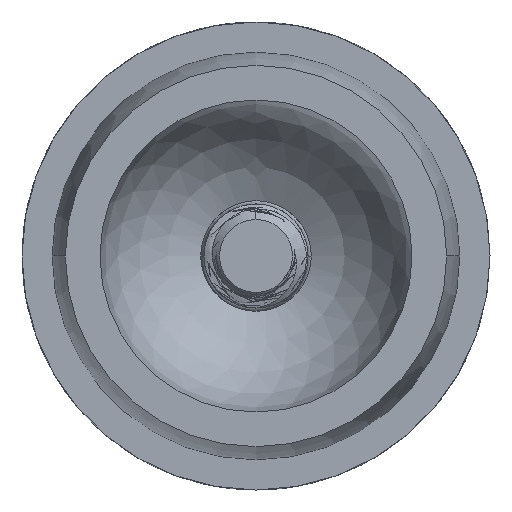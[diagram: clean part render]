
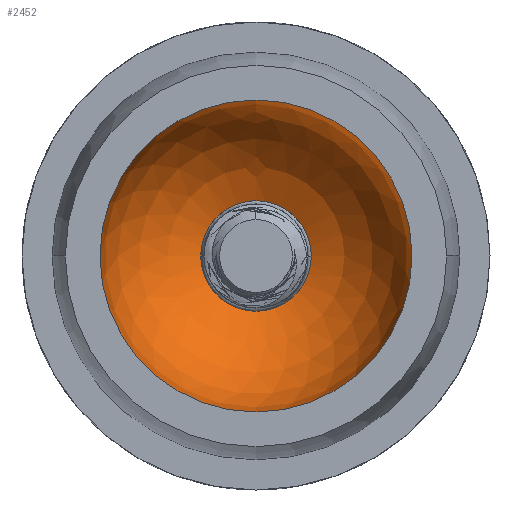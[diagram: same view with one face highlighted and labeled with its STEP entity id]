
A CAD part, left-side view. The second image highlights one B-rep face of the part: STEP entity #2452.
In plain terms, the highlighted spherical face has radius 9.525 mm.
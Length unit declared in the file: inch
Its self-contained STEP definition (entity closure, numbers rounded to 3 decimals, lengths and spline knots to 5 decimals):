
#52 = DIRECTION ( 'NONE',  ( 0., 0., -1. ) ) ;
#61 = AXIS2_PLACEMENT_3D ( 'NONE', #5486, #1793, #6084 ) ;
#211 = CARTESIAN_POINT ( 'NONE',  ( -0.27438, 0., 0. ) ) ;
#273 = ORIENTED_EDGE ( 'NONE', *, *, #7713, .T. ) ;
#340 = FACE_OUTER_BOUND ( 'NONE', #6195, .T. ) ;
#457 = CARTESIAN_POINT ( 'NONE',  ( -0.625, 0., 0. ) ) ;
#830 = DIRECTION ( 'NONE',  ( 0., 0., -1. ) ) ;
#838 = AXIS2_PLACEMENT_3D ( 'NONE', #457, #4741, #1078 ) ;
#882 = CIRCLE ( 'NONE', #6699, 0.133 ) ;
#1078 = DIRECTION ( 'NONE',  ( 0., -1., 0. ) ) ;
#1793 = DIRECTION ( 'NONE',  ( -1., 0., 0. ) ) ;
#1891 = ORIENTED_EDGE ( 'NONE', *, *, #4177, .T. ) ;
#2162 = DIRECTION ( 'NONE',  ( -1., 0., 0. ) ) ;
#2325 = CIRCLE ( 'NONE', #61, 0.375 ) ;
#2452 = ADVANCED_FACE ( 'NONE', ( #340, #3403 ), #5042, .F. ) ;
#2744 = VERTEX_POINT ( 'NONE', #7333 ) ;
#2804 = CARTESIAN_POINT ( 'NONE',  ( -0.625, 0., 0.375 ) ) ;
#3403 = FACE_BOUND ( 'NONE', #3822, .T. ) ;
#3449 = ORIENTED_EDGE ( 'NONE', *, *, #5776, .T. ) ;
#3465 = CARTESIAN_POINT ( 'NONE',  ( -0.27438, 0., 0.133 ) ) ;
#3723 = DIRECTION ( 'NONE',  ( 1., 0., 0. ) ) ;
#3822 = EDGE_LOOP ( 'NONE', ( #3449, #273 ) ) ;
#4177 = EDGE_CURVE ( 'NONE', #6134, #5359, #2325, .T. ) ;
#4497 = DIRECTION ( 'NONE',  ( 1., 0., 0. ) ) ;
#4741 = DIRECTION ( 'NONE',  ( -1., 0., 0. ) ) ;
#5042 = SPHERICAL_SURFACE ( 'NONE', #838, 0.375 ) ;
#5359 = VERTEX_POINT ( 'NONE', #2804 ) ;
#5405 = CARTESIAN_POINT ( 'NONE',  ( -0.625, 0., -0.375 ) ) ;
#5486 = CARTESIAN_POINT ( 'NONE',  ( -0.625, 0., 0. ) ) ;
#5730 = AXIS2_PLACEMENT_3D ( 'NONE', #211, #4497, #830 ) ;
#5776 = EDGE_CURVE ( 'NONE', #2744, #6716, #7371, .T. ) ;
#5829 = CARTESIAN_POINT ( 'NONE',  ( -0.625, 0., 0. ) ) ;
#5919 = EDGE_CURVE ( 'NONE', #5359, #6134, #7178, .T. ) ;
#6084 = DIRECTION ( 'NONE',  ( 0., 0., -1. ) ) ;
#6134 = VERTEX_POINT ( 'NONE', #5405 ) ;
#6136 = AXIS2_PLACEMENT_3D ( 'NONE', #5829, #2162, #6441 ) ;
#6195 = EDGE_LOOP ( 'NONE', ( #1891, #7604 ) ) ;
#6441 = DIRECTION ( 'NONE',  ( 0., 0., -1. ) ) ;
#6699 = AXIS2_PLACEMENT_3D ( 'NONE', #7367, #3723, #52 ) ;
#6716 = VERTEX_POINT ( 'NONE', #3465 ) ;
#7178 = CIRCLE ( 'NONE', #6136, 0.375 ) ;
#7333 = CARTESIAN_POINT ( 'NONE',  ( -0.27438, 0., -0.133 ) ) ;
#7367 = CARTESIAN_POINT ( 'NONE',  ( -0.27438, 0., 0. ) ) ;
#7371 = CIRCLE ( 'NONE', #5730, 0.133 ) ;
#7604 = ORIENTED_EDGE ( 'NONE', *, *, #5919, .T. ) ;
#7713 = EDGE_CURVE ( 'NONE', #6716, #2744, #882, .T. ) ;
